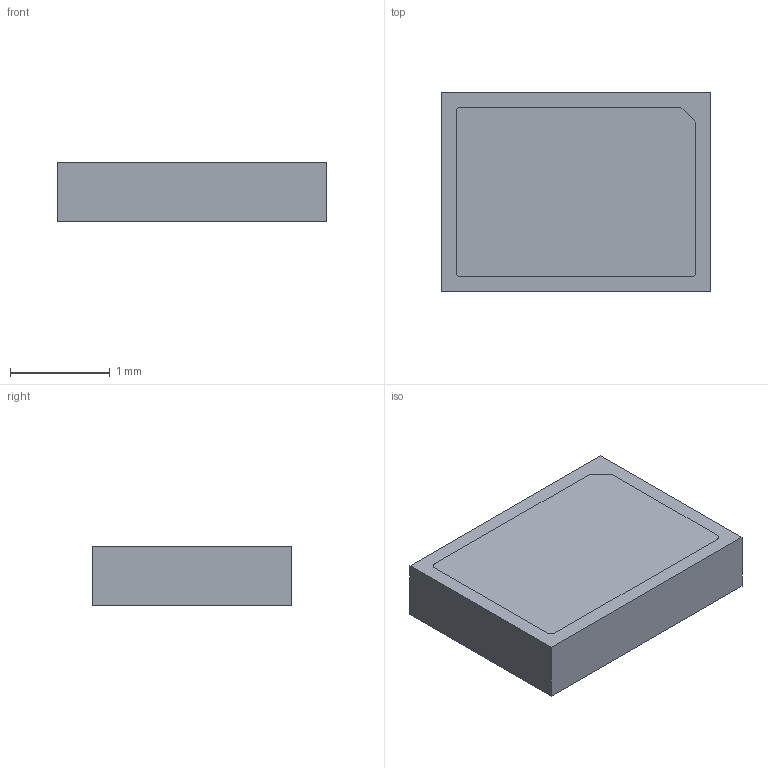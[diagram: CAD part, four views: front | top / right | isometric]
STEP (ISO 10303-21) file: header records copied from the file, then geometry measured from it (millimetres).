
FILE_DESCRIPTION (( 'STEP AP214' ), '1' );
FILE_NAME ('LWJB.STEP', '2024-01-25T20:42:12', ( '' ), ( '' ), 'SwSTEP 2.0', 'SolidWorks 2022', '' );
FILE_SCHEMA (( 'AUTOMOTIVE_DESIGN' ));
Length unit declared in the file: millimetre
Products named in the file (1): LWJB
Bounding box: 2.7 x 2 x 0.6 mm (x, y, z)
Volume: 3.2 mm3; surface area: 16.4 mm2
Topology: 1 solids, 1 shells, 9 faces, 28 edges, 24 vertices
Faces by surface type: plane 9
Entity records: 400 total; most frequent: CARTESIAN_POINT 62, ORIENTED_EDGE 56, DIRECTION 51, EDGE_CURVE 28, VECTOR 25, LINE 25, VERTEX_POINT 24, AXIS2_PLACEMENT_3D 13
